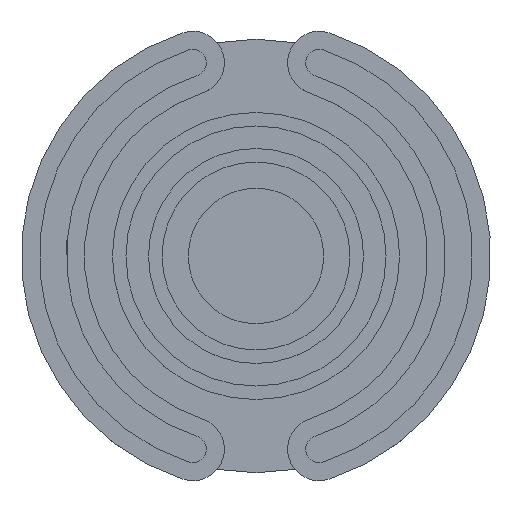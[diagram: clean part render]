
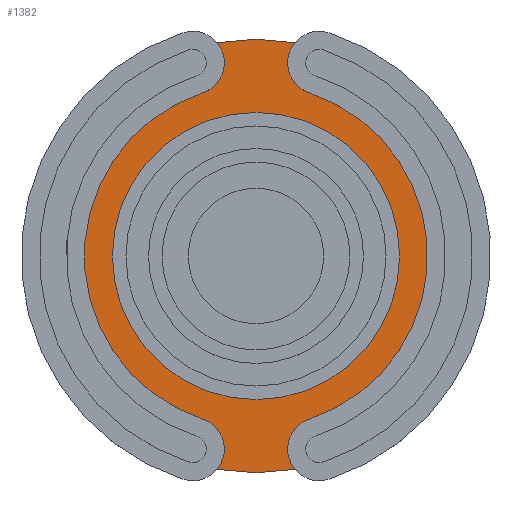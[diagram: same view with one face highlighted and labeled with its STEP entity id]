
A CAD part, top view. The second image highlights one B-rep face of the part: STEP entity #1382.
In plain terms, the highlighted planar face has unit normal (0, 0, 1).
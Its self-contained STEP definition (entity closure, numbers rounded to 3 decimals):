
#994=PLANE('',#5052);
#1382=ADVANCED_FACE('',(#1783,#1784),#994,.T.);
#1783=FACE_BOUND('',#1922,.T.);
#1784=FACE_BOUND('',#1923,.T.);
#1922=EDGE_LOOP('',(#2295));
#1923=EDGE_LOOP('',(#2296));
#2295=ORIENTED_EDGE('',*,*,#4140,.F.);
#2296=ORIENTED_EDGE('',*,*,#4138,.T.);
#3664=VERTEX_POINT('',#6859);
#3666=VERTEX_POINT('',#6865);
#4138=EDGE_CURVE('',#3664,#3664,#4826,.T.);
#4140=EDGE_CURVE('',#3666,#3666,#4828,.T.);
#4826=CIRCLE('',#5047,240.);
#4828=CIRCLE('',#5051,119.);
#5047=AXIS2_PLACEMENT_3D('',#6858,#5587,#5588);
#5051=AXIS2_PLACEMENT_3D('',#6864,#5595,#5596);
#5052=AXIS2_PLACEMENT_3D('',#6866,#5597,#5598);
#5587=DIRECTION('',(0.,0.,1.));
#5588=DIRECTION('',(1.,0.,0.));
#5595=DIRECTION('',(0.,0.,1.));
#5596=DIRECTION('',(1.,0.,0.));
#5597=DIRECTION('',(0.,0.,1.));
#5598=DIRECTION('',(1.,0.,0.));
#6858=CARTESIAN_POINT('',(3306.483,1693.915,-19.));
#6859=CARTESIAN_POINT('',(3546.483,1693.915,-19.));
#6864=CARTESIAN_POINT('',(3306.483,1693.915,-19.));
#6865=CARTESIAN_POINT('',(3425.483,1693.915,-19.));
#6866=CARTESIAN_POINT('',(3306.483,1693.915,-19.));
